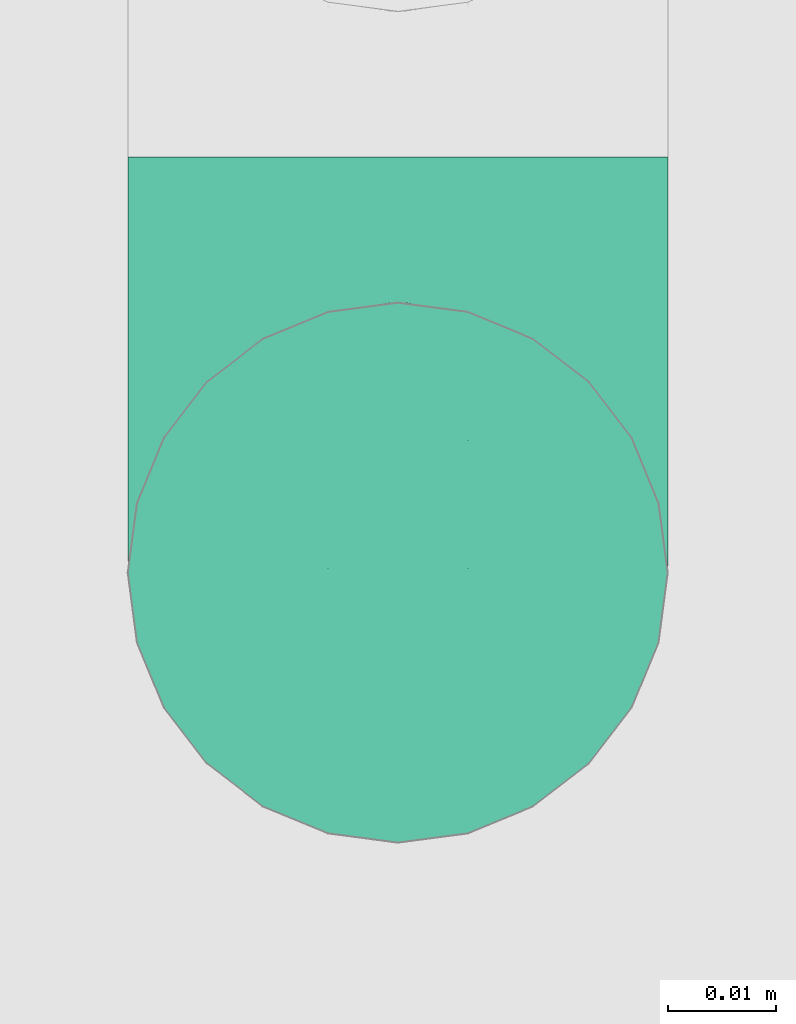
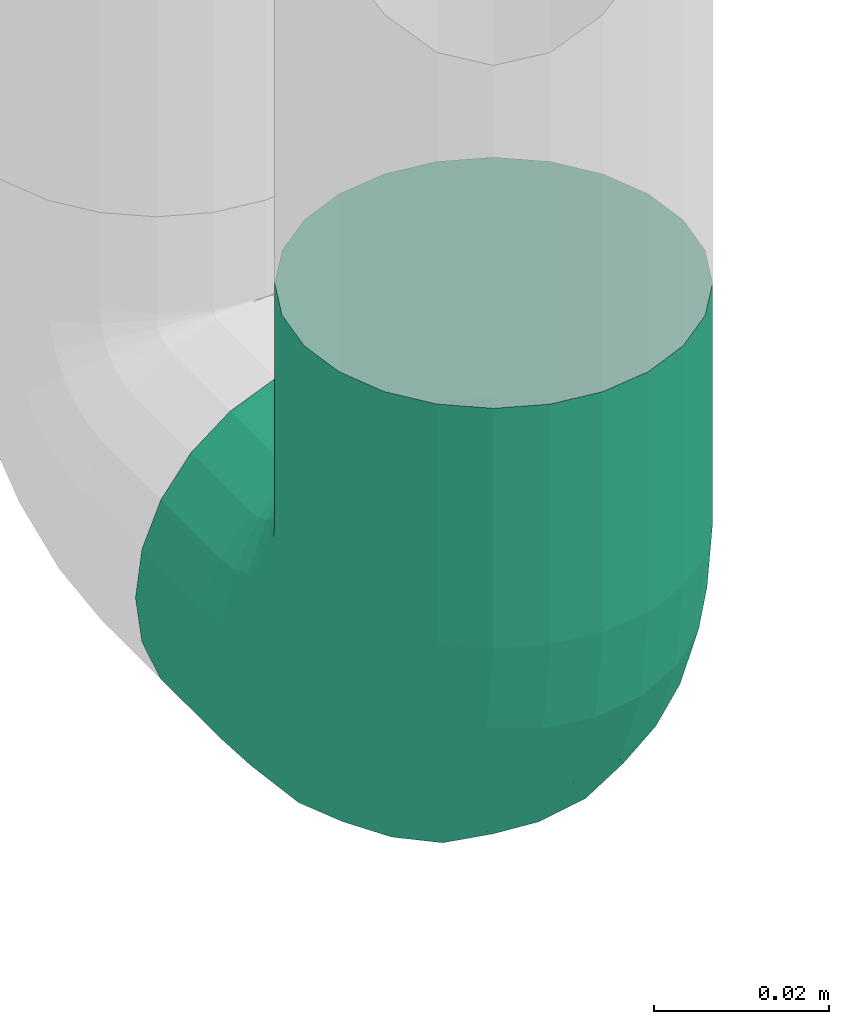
# One storey, part 295 of 374: 1 flow fitting.
"""IFC2X3 building model written with IfcOpenShell, lengths in metres."""

from ifc_helpers import new_model, si_unit, direction, origin, place, context, subcontext, project, spatial, open_shell, surface_model, source, transform, mapped, element, save


model = new_model("IFC2X3")

# Units and contexts
model_context = context("Model", 3, precision=1e-05, world=origin(), true_north=direction((-0.4480736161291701, 0.8939966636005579)))
body_context = subcontext(model_context, "Body", "Model", "MODEL_VIEW")
ifc_project = project(units=[si_unit("LENGTHUNIT", "METRE"), si_unit("AREAUNIT", "SQUARE_METRE"), si_unit("VOLUMEUNIT", "CUBIC_METRE"), si_unit("PLANEANGLEUNIT", "RADIAN"), si_unit("THERMODYNAMICTEMPERATUREUNIT", "KELVIN"), si_unit("MASSUNIT", "GRAM", prefix="KILO"), si_unit("TIMEUNIT", "SECOND")], contexts=[model_context])

# Site, building, storey
site_placement = place(None, origin())
site = spatial("IfcSite", under=ifc_project, at=site_placement, Name="Site 1", CompositionType="ELEMENT")
building_placement = place(site_placement, origin())
building = spatial("IfcBuilding", under=site, at=building_placement, Name="Undefined", CompositionType="ELEMENT")
storey_placement = place(building_placement, origin())
storey = spatial("IfcBuildingStorey", under=building, at=storey_placement, Name="Rez de chauss\x8ee", CompositionType="ELEMENT", Elevation=0.0)

# Flow fitting
shared_shape = source(origin(), body_context, "Body", "SurfaceModel", [
    surface_model("IfcFaceBasedSurfaceModel", [(0.0, 0.006526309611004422, 0.0), (0.0, 0.0, 0.0), (0.03350000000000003, 0.0, 7.105427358e-15), (0.03350000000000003, 0.006526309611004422, 0.0), (0.0, -0.006303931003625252, -0.0016891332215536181), (0.03350000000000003, -0.006303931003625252, -0.0016891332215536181), (0.0, -0.011955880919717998, -0.004952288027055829), (0.03350000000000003, -0.011955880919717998, -0.004952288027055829), (0.0, -0.016570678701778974, -0.009567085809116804), (0.03350000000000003, -0.016570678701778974, -0.009567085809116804), (0.0, -0.019833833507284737, -0.015219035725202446), (0.03350000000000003, -0.019833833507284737, -0.015219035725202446), (0.0, -0.021522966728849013, -0.02152296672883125), (0.03350000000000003, -0.021522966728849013, -0.02152296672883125), (0.0, -0.021522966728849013, -0.028049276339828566), (0.03350000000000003, -0.021522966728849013, -0.028049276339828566), (0.0, -0.019833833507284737, -0.034353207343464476), (0.03350000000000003, -0.019833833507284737, -0.034353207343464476), (0.0, -0.01657067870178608, -0.04000515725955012), (0.03350000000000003, -0.01657067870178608, -0.04000515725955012), (0.0, -0.011955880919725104, -0.0446199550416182), (0.03350000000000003, -0.011955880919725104, -0.0446199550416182), (0.0, -0.00630393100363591, -0.04788310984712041), (0.03350000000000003, -0.00630393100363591, -0.04788310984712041), (0.0, -1.0658141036e-14, -0.04957224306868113), (0.03350000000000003, -1.0658141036e-14, -0.04957224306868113), (0.0, 0.006526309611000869, -0.04957224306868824), (0.03350000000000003, 0.0065263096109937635, -0.04957224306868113), (0.0, 0.012830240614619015, -0.047883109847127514), (0.03350000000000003, 0.012830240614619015, -0.047883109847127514), (0.0, 0.018482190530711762, -0.0446199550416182), (0.03350000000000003, 0.018482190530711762, -0.0446199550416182), (0.0, 0.023096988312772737, -0.04000515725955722), (0.03350000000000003, 0.023096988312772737, -0.04000515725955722), (0.0, 0.026360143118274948, -0.03435320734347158), (0.03350000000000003, 0.026360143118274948, -0.03435320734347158), (0.0, 0.028049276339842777, -0.028049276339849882), (0.03350000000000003, 0.028049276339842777, -0.028049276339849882), (0.0, 0.028049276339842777, -0.02152296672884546), (0.03350000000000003, 0.028049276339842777, -0.02152296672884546), (0.0, 0.026360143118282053, -0.015219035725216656), (0.03350000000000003, 0.026360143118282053, -0.015219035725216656), (0.0, 0.023096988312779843, -0.00956708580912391), (0.03350000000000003, 0.023096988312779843, -0.00956708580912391), (0.0, 0.018482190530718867, -0.004952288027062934), (0.03350000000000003, 0.018482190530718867, -0.004952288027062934), (0.0, 0.01283024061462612, -0.0016891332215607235), (0.03350000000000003, 0.01283024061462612, -0.0016891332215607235), (0.046220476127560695, -0.019862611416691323, -0.02826786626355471), (0.046440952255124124, -0.019833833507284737, -0.02174534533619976), (0.05807407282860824, -0.014994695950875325, -0.028908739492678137), (0.058499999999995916, -0.014881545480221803, -0.02239732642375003), (0.06825298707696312, -0.007250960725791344, -0.029928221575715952), (0.0688553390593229, -0.007003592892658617, -0.023434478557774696), (0.07606354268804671, 0.0028408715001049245, -0.03125683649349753), (0.07680127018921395, 0.0032631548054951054, -0.024786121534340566), (0.08097346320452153, 0.014593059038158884, -0.032804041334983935), (0.08179629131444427, 0.015219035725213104, -0.026360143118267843), (0.08264814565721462, 0.02720470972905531, -0.034464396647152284), (0.08349999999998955, 0.028049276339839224, -0.028049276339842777), (0.04557407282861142, -0.01825785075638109, -0.03456068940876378), (0.056825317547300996, -0.013637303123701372, -0.03516899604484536), (0.06648698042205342, -0.006287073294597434, -0.036136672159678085), (0.07390063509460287, 0.003291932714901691, -0.03739777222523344), (0.07856105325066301, 0.014446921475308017, -0.0388663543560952), (0.0801506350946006, 0.02641769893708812, -0.04044233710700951), (0.04454579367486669, -0.015128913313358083, -0.040194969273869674), (0.05483883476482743, -0.010901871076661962, -0.040751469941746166), (0.06367766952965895, -0.004177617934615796, -0.04163673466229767), (0.07045994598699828, 0.004585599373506, -0.042790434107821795), (0.07472346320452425, 0.014790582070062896, -0.04413394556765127), (0.07617766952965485, 0.02574187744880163, -0.04557571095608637), (0.04320571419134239, -0.010689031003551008, -0.04478673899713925), (0.052249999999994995, -0.006974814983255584, -0.04527572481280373), (0.06001650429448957, -0.0010663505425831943, -0.0460535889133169), (0.0659759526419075, 0.0066337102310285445, -0.04706732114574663), (0.0697222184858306, 0.015600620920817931, -0.04824783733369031), (0.07099999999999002, 0.025223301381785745, -0.04951468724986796), (0.041645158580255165, -0.005240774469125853, -0.0480230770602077), (0.04923523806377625, -0.0021237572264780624, -0.04843344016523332), (0.05575298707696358, 0.0028347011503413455, -0.04908623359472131), (0.06075423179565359, 0.009296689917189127, -0.04993697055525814), (0.06389814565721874, 0.016821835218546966, -0.05092767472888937), (0.06497047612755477, 0.024897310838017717, -0.05199083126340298), (0.03997047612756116, 0.0008445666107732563, -0.049683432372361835), (0.04599999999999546, 0.0033207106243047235, -0.05000942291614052), (0.05117766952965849, 0.007259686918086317, -0.0505279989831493), (0.055150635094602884, 0.012393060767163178, -0.05120382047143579), (0.057648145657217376, 0.0183710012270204, -0.05199083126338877), (0.058499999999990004, 0.02478612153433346, -0.05283539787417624), (0.038295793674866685, 0.007152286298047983, -0.04965465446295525), (0.04276476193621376, 0.008987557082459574, -0.049896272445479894), (0.04660235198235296, 0.0119070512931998, -0.05028063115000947), (0.04954703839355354, 0.01571181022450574, -0.050781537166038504), (0.051398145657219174, 0.0201425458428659, -0.051364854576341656), (0.05202952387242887, 0.02489731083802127, -0.051990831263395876), (0.03673523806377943, 0.013252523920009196, -0.04793870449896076), (0.039749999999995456, 0.014490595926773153, -0.048101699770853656), (0.04233883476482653, 0.01646008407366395, -0.04836098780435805), (0.04432531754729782, 0.01902677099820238, -0.04869889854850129), (0.04557407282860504, 0.02201574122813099, -0.049092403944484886), (0.04599999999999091, 0.025223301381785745, -0.04951468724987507), (0.03539515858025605, 0.01872955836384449, -0.04465252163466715), (0.03716116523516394, 0.019454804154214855, -0.04474800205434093), (0.03867766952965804, 0.020608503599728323, -0.044899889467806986), (0.039841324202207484, 0.02211203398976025, -0.045097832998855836), (0.04057282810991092, 0.02386293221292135, -0.04532834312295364), (0.04082233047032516, 0.02574187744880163, -0.04557571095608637), (0.03436687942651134, 0.023210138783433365, -0.040020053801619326), (0.03517468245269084, 0.02354187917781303, -0.04006372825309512), (0.03586835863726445, 0.02406960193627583, -0.04013320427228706), (0.03640063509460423, 0.024757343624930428, -0.04022374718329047), (0.03673523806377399, 0.0255582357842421, -0.04032918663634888), (0.03684936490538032, 0.02641769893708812, -0.04044233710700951), (0.03372047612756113, 0.026388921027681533, -0.03435699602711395), (0.033925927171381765, 0.026473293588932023, -0.034368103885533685), (0.034102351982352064, 0.026607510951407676, -0.03438577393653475), (0.03423772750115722, 0.02678242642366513, -0.03440880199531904), (0.034322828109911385, 0.026986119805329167, -0.0344356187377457), (0.03435185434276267, 0.02720470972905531, -0.034464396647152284), (0.03372047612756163, 0.028078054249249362, -0.02152675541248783), (0.03392592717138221, 0.028162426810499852, -0.021537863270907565), (0.03410235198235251, 0.028296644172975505, -0.02155553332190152), (0.034237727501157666, 0.028471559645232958, -0.021578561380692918), (0.03432282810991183, 0.028675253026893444, -0.02160537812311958), (0.03435185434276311, 0.028893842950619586, -0.021634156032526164), (0.0343668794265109, 0.02647329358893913, -0.015233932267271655), (0.035174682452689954, 0.026805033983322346, -0.015277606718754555), (0.03586835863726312, 0.027332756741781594, -0.015347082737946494), (0.036400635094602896, 0.02802049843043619, -0.015437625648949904), (0.03673523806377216, 0.02882139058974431, -0.015543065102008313), (0.036849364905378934, 0.02968085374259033, -0.01565621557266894), (0.0353951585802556, 0.023344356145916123, -0.009599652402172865), (0.03716116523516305, 0.02406960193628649, -0.009695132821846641), (0.03867766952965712, 0.025223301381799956, -0.009847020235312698), (0.039841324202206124, 0.02672683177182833, -0.010044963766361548), (0.04057282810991, 0.02847772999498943, -0.010275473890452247), (0.04082233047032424, 0.030356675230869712, -0.01052284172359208), (0.036735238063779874, 0.0189044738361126, -0.005007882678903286), (0.039749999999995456, 0.020142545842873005, -0.005170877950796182), (0.042338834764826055, 0.022112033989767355, -0.005430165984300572), (0.044325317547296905, 0.024678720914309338, -0.005768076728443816), (0.045574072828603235, 0.02766769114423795, -0.006161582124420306), (0.04599999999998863, 0.030875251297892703, -0.0065838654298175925), (0.038295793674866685, 0.01345621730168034, -0.0017715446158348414), (0.0427647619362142, 0.015291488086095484, -0.002013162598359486), (0.04660235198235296, 0.018210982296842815, -0.0023975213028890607), (0.04954703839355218, 0.022015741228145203, -0.0028984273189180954), (0.051398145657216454, 0.02644647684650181, -0.003481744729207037), (0.052029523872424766, 0.03120124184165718, -0.004107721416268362), (0.03997047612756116, 0.007370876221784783, -0.00011118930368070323), (0.04599999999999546, 0.009847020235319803, -0.0004371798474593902), (0.05117766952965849, 0.013785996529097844, -0.0009557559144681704), (0.05515063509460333, 0.018919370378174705, -0.0016315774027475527), (0.05764814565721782, 0.02489731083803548, -0.002418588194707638), (0.058499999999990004, 0.03131243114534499, -0.0032631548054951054), (0.04164515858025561, 0.0010631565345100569, -0.00013996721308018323), (0.04923523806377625, 0.004180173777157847, -0.0005503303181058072), (0.055752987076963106, 0.009138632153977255, -0.0012031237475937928), (0.06075423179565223, 0.01560062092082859, -0.0020538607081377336), (0.06389814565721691, 0.023125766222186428, -0.0030445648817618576), (0.06497047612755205, 0.031201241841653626, -0.004107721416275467), (0.04320571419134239, -0.005037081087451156, -0.0018559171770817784), (0.052249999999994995, -0.0013228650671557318, -0.002344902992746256), (0.060016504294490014, 0.0045855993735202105, -0.0031227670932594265), (0.0659759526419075, 0.012285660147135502, -0.004136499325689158), (0.06972221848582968, 0.021252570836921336, -0.005317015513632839), (0.07099999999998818, 0.03087525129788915, -0.006583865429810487), (0.04454579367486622, -0.01051411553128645, -0.0051421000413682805), (0.05483883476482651, -0.006287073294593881, -0.005698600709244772), (0.06367766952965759, 0.0004371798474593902, -0.006583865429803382), (0.07045994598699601, 0.009200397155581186, -0.007737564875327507), (0.07472346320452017, 0.019405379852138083, -0.009081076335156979), (0.07617766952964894, 0.030356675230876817, -0.01052284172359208), (0.04557407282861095, -0.014994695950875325, -0.009774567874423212), (0.05682531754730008, -0.010374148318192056, -0.010382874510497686), (0.06648698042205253, -0.003023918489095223, -0.011350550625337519), (0.07390063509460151, 0.006555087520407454, -0.012611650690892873), (0.07856105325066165, 0.01771007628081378, -0.014080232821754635), (0.08015063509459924, 0.02968085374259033, -0.01565621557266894), (0.04622047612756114, -0.018173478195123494, -0.015437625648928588), (0.05807407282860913, -0.013305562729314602, -0.016078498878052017), (0.06825298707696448, -0.005561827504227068, -0.01709798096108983), (0.07606354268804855, 0.0045300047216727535, -0.01842659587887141), (0.0809734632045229, 0.016282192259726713, -0.019973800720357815), (0.08264814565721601, 0.02889384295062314, -0.021634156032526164), (0.08264814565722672, 0.04058921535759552, -0.03622650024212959), (0.08350000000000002, 0.041433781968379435, -0.02981137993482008), (0.08015063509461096, 0.03980220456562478, -0.04220444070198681), (0.0761776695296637, 0.039126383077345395, -0.04733781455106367), (0.07100000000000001, 0.03860780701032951, -0.051276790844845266), (0.06497047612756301, 0.03828181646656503, -0.053752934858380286), (0.058499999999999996, 0.03817062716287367, -0.05459750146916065), (0.05202952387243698, 0.03828181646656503, -0.053752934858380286), (0.04600000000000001, 0.03860780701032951, -0.051276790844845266), (0.040822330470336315, 0.039126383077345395, -0.04733781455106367), (0.03684936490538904, 0.03980220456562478, -0.04220444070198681), (0.034351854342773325, 0.04058921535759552, -0.03622650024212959), (0.03350000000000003, 0.041433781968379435, -0.02981137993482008), (0.034351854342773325, 0.04227834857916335, -0.02339625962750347), (0.03684936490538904, 0.04306535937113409, -0.017418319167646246), (0.040822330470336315, 0.043741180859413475, -0.012284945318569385), (0.04600000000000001, 0.04425975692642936, -0.008345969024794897), (0.05202952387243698, 0.04458574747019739, -0.005869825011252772), (0.058499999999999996, 0.0446969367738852, -0.005025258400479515), (0.06497047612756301, 0.04458574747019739, -0.005869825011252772), (0.07100000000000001, 0.04425975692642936, -0.008345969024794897), (0.0761776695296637, 0.043741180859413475, -0.012284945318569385), (0.08015063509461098, 0.04306535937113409, -0.017418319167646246), (0.08264814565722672, 0.04227834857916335, -0.02339625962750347)], [open_shell([[[0, 1, 2, 3]], [[1, 4, 5, 2]], [[4, 6, 7, 5]], [[6, 8, 9, 7]], [[8, 10, 11, 9]], [[10, 12, 13, 11]], [[12, 14, 15, 13]], [[14, 16, 17, 15]], [[16, 18, 19, 17]], [[18, 20, 21, 19]], [[20, 22, 23, 21]], [[22, 24, 25, 23]], [[24, 26, 27, 25]], [[26, 28, 29, 27]], [[28, 30, 31, 29]], [[30, 32, 33, 31]], [[32, 34, 35, 33]], [[34, 36, 37, 35]], [[36, 38, 39, 37]], [[38, 40, 41, 39]], [[40, 42, 43, 41]], [[42, 44, 45, 43]], [[44, 46, 47, 45]], [[46, 0, 3, 47]], [[13, 15, 48, 49]], [[49, 48, 50, 51]], [[51, 50, 52, 53]], [[53, 52, 54, 55]], [[55, 54, 56, 57]], [[57, 56, 58, 59]], [[15, 17, 60, 48]], [[48, 60, 61, 50]], [[50, 61, 62, 52]], [[52, 62, 63, 54]], [[54, 63, 64, 56]], [[56, 64, 65, 58]], [[17, 19, 66, 60]], [[60, 66, 67, 61]], [[61, 67, 68, 62]], [[62, 68, 69, 63]], [[63, 69, 70, 64]], [[64, 70, 71, 65]], [[19, 21, 72, 66]], [[66, 72, 73, 67]], [[67, 73, 74, 68]], [[68, 74, 75, 69]], [[69, 75, 76, 70]], [[70, 76, 77, 71]], [[21, 23, 78, 72]], [[72, 78, 79, 73]], [[73, 79, 80, 74]], [[74, 80, 81, 75]], [[75, 81, 82, 76]], [[76, 82, 83, 77]], [[23, 25, 84, 78]], [[78, 84, 85, 79]], [[79, 85, 86, 80]], [[80, 86, 87, 81]], [[81, 87, 88, 82]], [[82, 88, 89, 83]], [[25, 27, 90, 84]], [[84, 90, 91, 85]], [[85, 91, 92, 86]], [[86, 92, 93, 87]], [[87, 93, 94, 88]], [[88, 94, 95, 89]], [[27, 29, 96, 90]], [[90, 96, 97, 91]], [[91, 97, 98, 92]], [[92, 98, 99, 93]], [[93, 99, 100, 94]], [[94, 100, 101, 95]], [[29, 31, 102, 96]], [[96, 102, 103, 97]], [[97, 103, 104, 98]], [[98, 104, 105, 99]], [[99, 105, 106, 100]], [[100, 106, 107, 101]], [[31, 33, 108, 102]], [[102, 108, 109, 103]], [[103, 109, 110, 104]], [[104, 110, 111, 105]], [[105, 111, 112, 106]], [[106, 112, 113, 107]], [[33, 35, 114, 108]], [[108, 114, 115, 109]], [[109, 115, 116, 110]], [[110, 116, 117, 111]], [[111, 117, 118, 112]], [[112, 118, 119, 113]], [[35, 37, 114]], [[114, 37, 115]], [[115, 37, 116]], [[116, 37, 117]], [[117, 37, 118]], [[118, 37, 119]], [[37, 39, 120]], [[37, 120, 121]], [[37, 121, 122]], [[37, 122, 123]], [[37, 123, 124]], [[37, 124, 125]], [[39, 41, 126, 120]], [[120, 126, 127, 121]], [[121, 127, 128, 122]], [[122, 128, 129, 123]], [[123, 129, 130, 124]], [[124, 130, 131, 125]], [[41, 43, 132, 126]], [[126, 132, 133, 127]], [[127, 133, 134, 128]], [[128, 134, 135, 129]], [[129, 135, 136, 130]], [[130, 136, 137, 131]], [[43, 45, 138, 132]], [[132, 138, 139, 133]], [[133, 139, 140, 134]], [[134, 140, 141, 135]], [[135, 141, 142, 136]], [[136, 142, 143, 137]], [[45, 47, 144, 138]], [[138, 144, 145, 139]], [[139, 145, 146, 140]], [[140, 146, 147, 141]], [[141, 147, 148, 142]], [[142, 148, 149, 143]], [[47, 3, 150, 144]], [[144, 150, 151, 145]], [[145, 151, 152, 146]], [[146, 152, 153, 147]], [[147, 153, 154, 148]], [[148, 154, 155, 149]], [[3, 2, 156, 150]], [[150, 156, 157, 151]], [[151, 157, 158, 152]], [[152, 158, 159, 153]], [[153, 159, 160, 154]], [[154, 160, 161, 155]], [[2, 5, 162, 156]], [[156, 162, 163, 157]], [[157, 163, 164, 158]], [[158, 164, 165, 159]], [[159, 165, 166, 160]], [[160, 166, 167, 161]], [[5, 7, 168, 162]], [[162, 168, 169, 163]], [[163, 169, 170, 164]], [[164, 170, 171, 165]], [[165, 171, 172, 166]], [[166, 172, 173, 167]], [[7, 9, 174, 168]], [[168, 174, 175, 169]], [[169, 175, 176, 170]], [[170, 176, 177, 171]], [[171, 177, 178, 172]], [[172, 178, 179, 173]], [[9, 11, 180, 174]], [[174, 180, 181, 175]], [[175, 181, 182, 176]], [[176, 182, 183, 177]], [[177, 183, 184, 178]], [[178, 184, 185, 179]], [[11, 13, 49, 180]], [[180, 49, 51, 181]], [[181, 51, 53, 182]], [[182, 53, 55, 183]], [[183, 55, 57, 184]], [[184, 57, 59, 185]], [[59, 58, 186, 187]], [[58, 65, 188, 186]], [[65, 71, 189, 188]], [[71, 77, 190, 189]], [[77, 83, 191, 190]], [[83, 89, 192, 191]], [[89, 95, 193, 192]], [[95, 101, 194, 193]], [[101, 107, 195, 194]], [[107, 113, 196, 195]], [[113, 119, 197, 196]], [[119, 37, 198, 197]], [[37, 125, 199, 198]], [[125, 131, 200, 199]], [[131, 137, 201, 200]], [[137, 143, 202, 201]], [[143, 149, 203, 202]], [[149, 155, 204, 203]], [[155, 161, 205, 204]], [[161, 167, 206, 205]], [[167, 173, 207, 206]], [[173, 179, 208, 207]], [[179, 185, 209, 208]], [[185, 59, 187, 209]]])]),
])
flow_fitting_placement = place(storey_placement, origin())
element("IfcFlowFitting", 1, at=flow_fitting_placement, inside=storey, Name="PE-HD équerre de raccordement 88.5°", ObjectType="PE-HD équerre de raccordement 88.5°", context=body_context, shape_type="MappedRepresentation", body=[
    mapped(shared_shape, transform((55.0158063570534, 13.693675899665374, 0.28859468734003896), x_axis=(0.0, 0.0, -1.0), y_axis=(0.13052619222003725, 0.9914448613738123, 0.0), z_axis=(0.9914448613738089, -0.13052619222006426, 0.0))),
])

save(model, "model.ifc")
